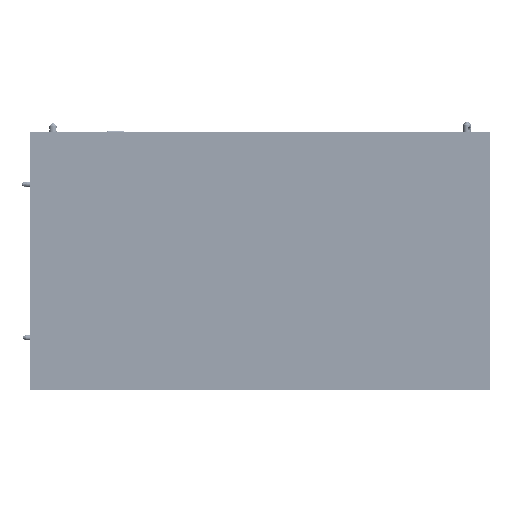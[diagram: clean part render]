
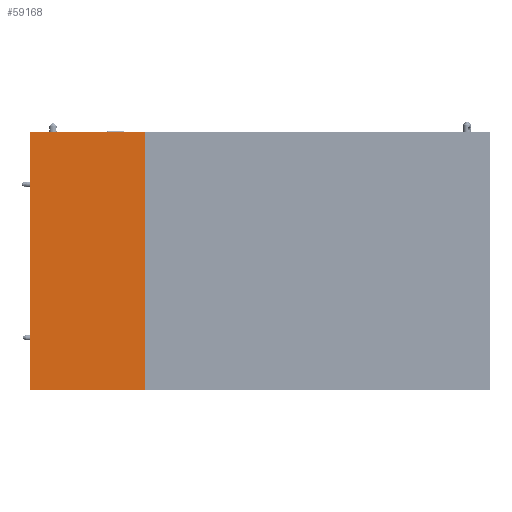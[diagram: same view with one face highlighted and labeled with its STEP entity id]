
A CAD part, top view. The second image highlights one B-rep face of the part: STEP entity #59168.
In plain terms, the highlighted planar face has unit normal (0, 0, 1) as drawn and (0, 0, -1) by its records, which use the part's own axes.
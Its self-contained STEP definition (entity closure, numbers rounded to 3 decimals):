
#7771 = LINE ( 'NONE', #88375, #468123 ) ;
#33306 = LINE ( 'NONE', #80905, #392096 ) ;
#36233 = DIRECTION ( 'NONE',  ( 0., 1., 0. ) ) ;
#46322 = VERTEX_POINT ( 'NONE', #251484 ) ;
#59168 = ADVANCED_FACE ( 'NONE', ( #107782 ), #188366, .F. ) ;
#80905 = CARTESIAN_POINT ( 'NONE',  ( 75., 0., -1. ) ) ;
#88375 = CARTESIAN_POINT ( 'NONE',  ( -75., 0., -1. ) ) ;
#107782 = FACE_OUTER_BOUND ( 'NONE', #422523, .T. ) ;
#163672 = VERTEX_POINT ( 'NONE', #202753 ) ;
#172366 = AXIS2_PLACEMENT_3D ( 'NONE', #378931, #238979, #551893 ) ;
#188366 = PLANE ( 'NONE',  #172366 ) ;
#191837 = EDGE_CURVE ( 'NONE', #466931, #393088, #7771, .T. ) ;
#193501 = CARTESIAN_POINT ( 'NONE',  ( -75., 168.75, -1. ) ) ;
#194712 = EDGE_CURVE ( 'NONE', #46322, #466931, #416766, .T. ) ;
#202753 = CARTESIAN_POINT ( 'NONE',  ( 75., -168.75, -1. ) ) ;
#216696 = ORIENTED_EDGE ( 'NONE', *, *, #191837, .F. ) ;
#224561 = ORIENTED_EDGE ( 'NONE', *, *, #547177, .F. ) ;
#237951 = DIRECTION ( 'NONE',  ( -1., 0., 0. ) ) ;
#238979 = DIRECTION ( 'NONE',  ( 0., 0., 1. ) ) ;
#251484 = CARTESIAN_POINT ( 'NONE',  ( 75., 168.75, -1. ) ) ;
#253501 = DIRECTION ( 'NONE',  ( 1., 0., 0. ) ) ;
#261817 = EDGE_CURVE ( 'NONE', #163672, #46322, #33306, .T. ) ;
#270167 = DIRECTION ( 'NONE',  ( 0., -1., 0. ) ) ;
#272214 = VECTOR ( 'NONE', #253501, 1000. ) ;
#291418 = CARTESIAN_POINT ( 'NONE',  ( 0., 168.75, -1. ) ) ;
#319249 = ORIENTED_EDGE ( 'NONE', *, *, #194712, .F. ) ;
#342869 = LINE ( 'NONE', #524703, #272214 ) ;
#378931 = CARTESIAN_POINT ( 'NONE',  ( 0., 0., -1. ) ) ;
#392096 = VECTOR ( 'NONE', #36233, 1000. ) ;
#393088 = VERTEX_POINT ( 'NONE', #513781 ) ;
#416766 = LINE ( 'NONE', #291418, #484566 ) ;
#422523 = EDGE_LOOP ( 'NONE', ( #224561, #216696, #319249, #455492 ) ) ;
#455492 = ORIENTED_EDGE ( 'NONE', *, *, #261817, .F. ) ;
#466931 = VERTEX_POINT ( 'NONE', #193501 ) ;
#468123 = VECTOR ( 'NONE', #270167, 1000. ) ;
#484566 = VECTOR ( 'NONE', #237951, 1000. ) ;
#513781 = CARTESIAN_POINT ( 'NONE',  ( -75., -168.75, -1. ) ) ;
#524703 = CARTESIAN_POINT ( 'NONE',  ( 0., -168.75, -1. ) ) ;
#547177 = EDGE_CURVE ( 'NONE', #393088, #163672, #342869, .T. ) ;
#551893 = DIRECTION ( 'NONE',  ( 1., 0., 0. ) ) ;
